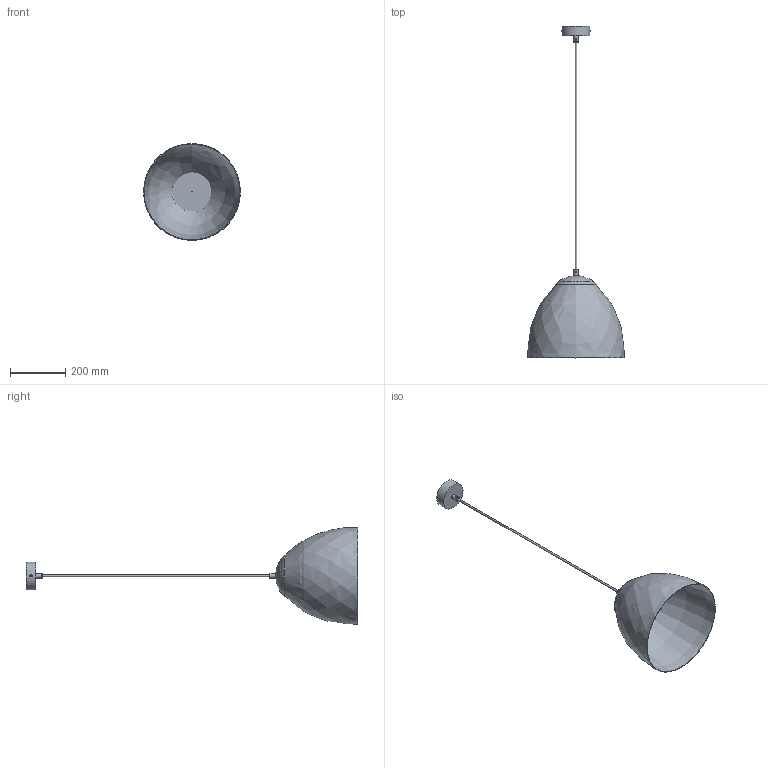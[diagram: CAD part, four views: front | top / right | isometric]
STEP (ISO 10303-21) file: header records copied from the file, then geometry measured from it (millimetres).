
FILE_DESCRIPTION(/* description */ (''),/* implementation_level */ '2;1');
FILE_NAME(/* name */ 'C:/Users/kubaw/OneDrive/Pulpit/Nowy folder/FARO v4/FARO v4.step',/* time_stamp */ '2021-03-13T10:10:17+01:00',/* author */ (''),/* organization */ (''),/* preprocessor_version */ 'ST-DEVELOPER v18.1',/* originating_system */ 'Autodesk Translation Framework v9.10.0.1330',/* authorisation */ '');
FILE_SCHEMA (('AUTOMOTIVE_DESIGN { 1 0 10303 214 3 1 1 }'));
Length unit declared in the file: millimetre
Products named in the file (3): FARO; ŚRUBA FARO; ŚRUBA FARO v1(Mirror)
Assembly tree (2 placements, depth 2):
  FARO
    ŚRUBA FARO
    ŚRUBA FARO v1(Mirror)
Bounding box: 350.79 x 1200 x 350.4 mm (x, y, z)
Volume: 1176319.4 mm3; surface area: 651452 mm2
Topology: 12 solids, 12 shells, 89 faces, 206 edges, 137 vertices
Faces by surface type: plane 55, cylinder 18, bspline 12, cone 2, torus 2
Full cylindrical faces by diameter (mm): 6 x2, 7 x1, 8 x2, 13 x2, 16 x2, 100 x1
Entity records: 5209 total; most frequent: CARTESIAN_POINT 3211, ORIENTED_EDGE 404, DIRECTION 354, EDGE_CURVE 202, VERTEX_POINT 137, AXIS2_PLACEMENT_3D 130, EDGE_LOOP 98, LINE 94
